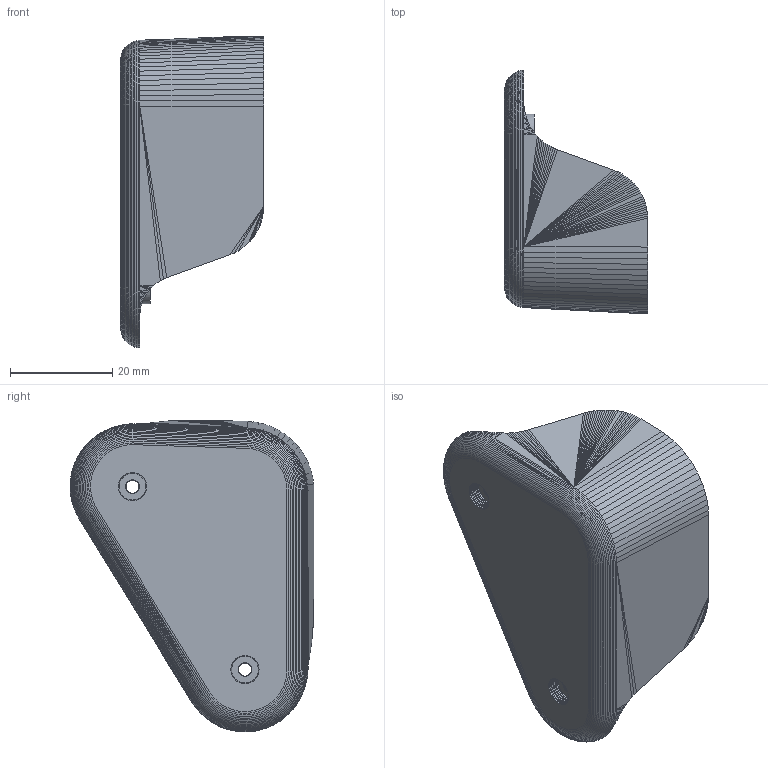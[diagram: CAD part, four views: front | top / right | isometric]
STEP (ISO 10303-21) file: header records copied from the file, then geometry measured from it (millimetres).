
FILE_DESCRIPTION (( 'STEP AP203' ), '1' );
FILE_NAME ('right_upper_leg_衵奻虯-FT.STEP', '2026-09-12T23:42:30', ( '' ), ( '' ), 'SwSTEP 2.0', 'SolidWorks 2021', '' );
FILE_SCHEMA (( 'CONFIG_CONTROL_DESIGN' ));
Length unit declared in the file: millimetre
Products named in the file (1): right_upper_leg_衵奻虯-FT
Bounding box: 28 x 47.66 x 61 mm (x, y, z)
Volume: 4183.2 mm3; surface area: 8613.5 mm2
Topology: 1 solids, 1 shells, 5392 faces, 11289 edges, 5907 vertices
Faces by surface type: plane 5384, cylinder 8
Entity records: 134332 total; most frequent: CARTESIAN_POINT 23177, ORIENTED_EDGE 22578, DIRECTION 21933, EDGE_CURVE 11289, LINE 11039, VECTOR 11039, VERTEX_POINT 5907, AXIS2_PLACEMENT_3D 5447
